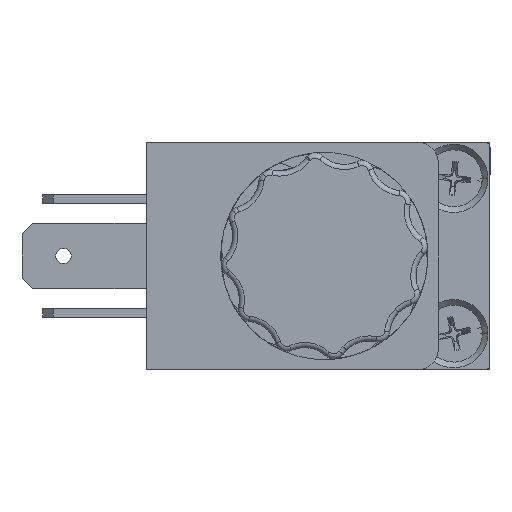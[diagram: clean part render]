
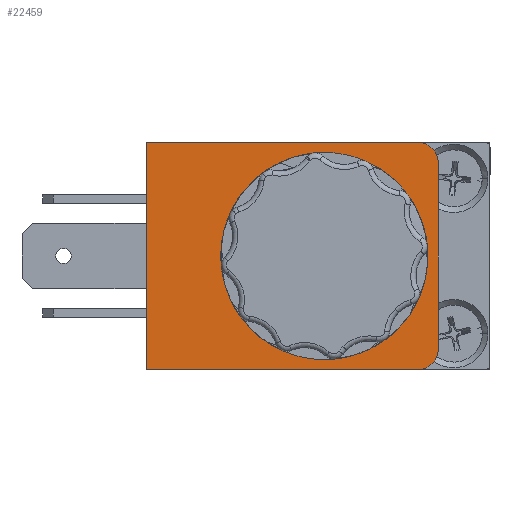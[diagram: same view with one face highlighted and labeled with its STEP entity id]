
A CAD part, left-side view. The second image highlights one B-rep face of the part: STEP entity #22459.
In plain terms, the highlighted planar face has unit normal (-1, 0, 0) as drawn and (0, 0, 1) by its records, which use the part's own axes.
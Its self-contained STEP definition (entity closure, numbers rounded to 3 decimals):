
#4934 = AXIS2_PLACEMENT_3D ( 'NONE', #7035, #7045, #7046 ) ;
#7035 = CARTESIAN_POINT ( 'NONE',  ( 0., -3.1, 30.5 ) ) ;
#7036 = PLANE ( 'NONE',  #4934 ) ;
#7045 = DIRECTION ( 'NONE',  ( 0., 0., 1. ) ) ;
#7046 = DIRECTION ( 'NONE',  ( 0.707, 0.707, 0. ) ) ;
#7927 = FACE_OUTER_BOUND ( 'NONE', #24078, .T. ) ;
#7940 = FACE_BOUND ( 'NONE', #26005, .T. ) ;
#15456 = CIRCLE ( 'NONE', #19290, 2. ) ;
#15458 = CIRCLE ( 'NONE', #19295, 2. ) ;
#15474 = CIRCLE ( 'NONE', #19296, 8.3 ) ;
#18843 = VERTEX_POINT ( 'NONE', #32751 ) ;
#18844 = VERTEX_POINT ( 'NONE', #32752 ) ;
#18845 = VERTEX_POINT ( 'NONE', #32753 ) ;
#18849 = VERTEX_POINT ( 'NONE', #32757 ) ;
#18906 = VERTEX_POINT ( 'NONE', #32814 ) ;
#18907 = VERTEX_POINT ( 'NONE', #32815 ) ;
#18908 = VERTEX_POINT ( 'NONE', #32816 ) ;
#18909 = VERTEX_POINT ( 'NONE', #32817 ) ;
#18912 = VERTEX_POINT ( 'NONE', #32820 ) ;
#18913 = VERTEX_POINT ( 'NONE', #32821 ) ;
#19290 = AXIS2_PLACEMENT_3D ( 'NONE', #19704, #19705, #19706 ) ;
#19295 = AXIS2_PLACEMENT_3D ( 'NONE', #19707, #19710, #19711 ) ;
#19296 = AXIS2_PLACEMENT_3D ( 'NONE', #19736, #19737, #19738 ) ;
#19311 = AXIS2_PLACEMENT_3D ( 'NONE', #19895, #19897, #19898 ) ;
#19318 = AXIS2_PLACEMENT_3D ( 'NONE', #19921, #19928, #19929 ) ;
#19321 = AXIS2_PLACEMENT_3D ( 'NONE', #19940, #19948, #19949 ) ;
#19704 = CARTESIAN_POINT ( 'NONE',  ( 9., 9., 30.5 ) ) ;
#19705 = DIRECTION ( 'NONE',  ( 0., 0., -1. ) ) ;
#19706 = DIRECTION ( 'NONE',  ( 0.707, 0.707, 0. ) ) ;
#19707 = CARTESIAN_POINT ( 'NONE',  ( -9., 9., 30.5 ) ) ;
#19710 = DIRECTION ( 'NONE',  ( 0., 0., -1. ) ) ;
#19711 = DIRECTION ( 'NONE',  ( -0.707, 0.707, 0. ) ) ;
#19736 = CARTESIAN_POINT ( 'NONE',  ( 0., 0., 30.5 ) ) ;
#19737 = DIRECTION ( 'NONE',  ( 0., 0., -1. ) ) ;
#19738 = DIRECTION ( 'NONE',  ( -1., 0., 0. ) ) ;
#19895 = CARTESIAN_POINT ( 'NONE',  ( 0., 0., 30.5 ) ) ;
#19897 = DIRECTION ( 'NONE',  ( 0., 0., -1. ) ) ;
#19898 = DIRECTION ( 'NONE',  ( -1., 0., 0. ) ) ;
#19921 = CARTESIAN_POINT ( 'NONE',  ( 9., 9., 30.5 ) ) ;
#19928 = DIRECTION ( 'NONE',  ( 0., 0., -1. ) ) ;
#19929 = DIRECTION ( 'NONE',  ( 0.707, 0.707, 0. ) ) ;
#19932 = CARTESIAN_POINT ( 'NONE',  ( -9., 11., 30.5 ) ) ;
#19936 = DIRECTION ( 'NONE',  ( 1., 0., 0. ) ) ;
#19939 = CARTESIAN_POINT ( 'NONE',  ( 11., 9., 30.5 ) ) ;
#19940 = CARTESIAN_POINT ( 'NONE',  ( -9., 9., 30.5 ) ) ;
#19943 = DIRECTION ( 'NONE',  ( 0., -1., 0. ) ) ;
#19948 = DIRECTION ( 'NONE',  ( 0., 0., -1. ) ) ;
#19949 = DIRECTION ( 'NONE',  ( -0.707, 0.707, 0. ) ) ;
#19954 = CARTESIAN_POINT ( 'NONE',  ( -11., -17.2, 30.5 ) ) ;
#19955 = DIRECTION ( 'NONE',  ( 0., 1., 0. ) ) ;
#19958 = CARTESIAN_POINT ( 'NONE',  ( 11., -17.2, 30.5 ) ) ;
#19959 = DIRECTION ( 'NONE',  ( -1., 0., 0. ) ) ;
#20580 = CIRCLE ( 'NONE', #19311, 8.3 ) ;
#20595 = LINE ( 'NONE', #19932, #20603 ) ;
#20600 = CIRCLE ( 'NONE', #19318, 2. ) ;
#20603 = VECTOR ( 'NONE', #19936, 1000. ) ;
#20604 = LINE ( 'NONE', #19939, #20607 ) ;
#20607 = VECTOR ( 'NONE', #19943, 1000. ) ;
#20611 = CIRCLE ( 'NONE', #19321, 2. ) ;
#20614 = LINE ( 'NONE', #19954, #20615 ) ;
#20615 = VECTOR ( 'NONE', #19955, 1000. ) ;
#20618 = LINE ( 'NONE', #19958, #20619 ) ;
#20619 = VECTOR ( 'NONE', #19959, 1000. ) ;
#22459 = ADVANCED_FACE ( 'NONE', ( #7927, #7940 ), #7036, .T. ) ;
#24078 = EDGE_LOOP ( 'NONE', ( #30864, #30865, #30866, #30867, #30868, #30869, #30870, #30871 ) ) ;
#26005 = EDGE_LOOP ( 'NONE', ( #30872, #30873 ) ) ;
#27600 = EDGE_CURVE ( 'NONE', #18909, #18908, #15456, .T. ) ;
#27602 = EDGE_CURVE ( 'NONE', #18913, #18912, #15458, .T. ) ;
#27613 = EDGE_CURVE ( 'NONE', #18907, #18906, #15474, .T. ) ;
#27686 = EDGE_CURVE ( 'NONE', #18906, #18907, #20580, .T. ) ;
#27699 = EDGE_CURVE ( 'NONE', #18849, #18909, #20600, .T. ) ;
#27702 = EDGE_CURVE ( 'NONE', #18912, #18849, #20595, .T. ) ;
#27705 = EDGE_CURVE ( 'NONE', #18908, #18843, #20604, .T. ) ;
#27707 = EDGE_CURVE ( 'NONE', #18845, #18913, #20611, .T. ) ;
#27710 = EDGE_CURVE ( 'NONE', #18844, #18845, #20614, .T. ) ;
#27712 = EDGE_CURVE ( 'NONE', #18843, #18844, #20618, .T. ) ;
#30864 = ORIENTED_EDGE ( 'NONE', *, *, #27699, .F. ) ;
#30865 = ORIENTED_EDGE ( 'NONE', *, *, #27702, .F. ) ;
#30866 = ORIENTED_EDGE ( 'NONE', *, *, #27602, .F. ) ;
#30867 = ORIENTED_EDGE ( 'NONE', *, *, #27707, .F. ) ;
#30868 = ORIENTED_EDGE ( 'NONE', *, *, #27710, .F. ) ;
#30869 = ORIENTED_EDGE ( 'NONE', *, *, #27712, .F. ) ;
#30870 = ORIENTED_EDGE ( 'NONE', *, *, #27705, .F. ) ;
#30871 = ORIENTED_EDGE ( 'NONE', *, *, #27600, .F. ) ;
#30872 = ORIENTED_EDGE ( 'NONE', *, *, #27686, .T. ) ;
#30873 = ORIENTED_EDGE ( 'NONE', *, *, #27613, .T. ) ;
#32751 = CARTESIAN_POINT ( 'NONE',  ( 11., -17.2, 30.5 ) ) ;
#32752 = CARTESIAN_POINT ( 'NONE',  ( -11., -17.2, 30.5 ) ) ;
#32753 = CARTESIAN_POINT ( 'NONE',  ( -11., 9., 30.5 ) ) ;
#32757 = CARTESIAN_POINT ( 'NONE',  ( 9., 11., 30.5 ) ) ;
#32814 = CARTESIAN_POINT ( 'NONE',  ( -8.3, 0., 30.5 ) ) ;
#32815 = CARTESIAN_POINT ( 'NONE',  ( 8.3, 0., 30.5 ) ) ;
#32816 = CARTESIAN_POINT ( 'NONE',  ( 11., 9., 30.5 ) ) ;
#32817 = CARTESIAN_POINT ( 'NONE',  ( 10.414, 10.414, 30.5 ) ) ;
#32820 = CARTESIAN_POINT ( 'NONE',  ( -9., 11., 30.5 ) ) ;
#32821 = CARTESIAN_POINT ( 'NONE',  ( -10.414, 10.414, 30.5 ) ) ;
